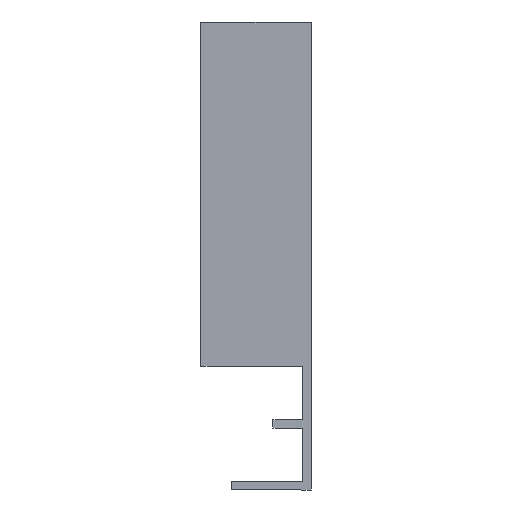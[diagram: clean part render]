
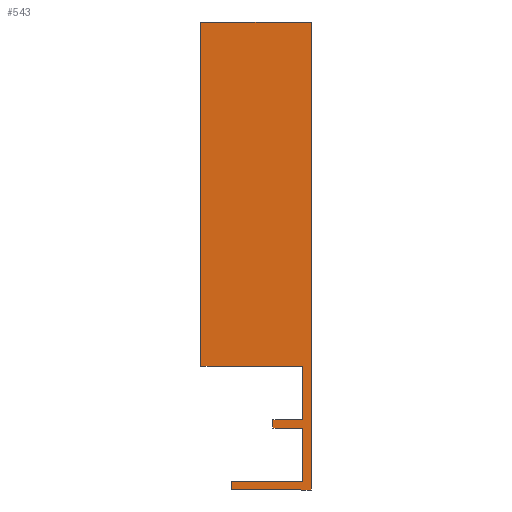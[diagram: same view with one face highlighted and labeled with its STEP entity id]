
A CAD part, left-side view. The second image highlights one B-rep face of the part: STEP entity #543.
In plain terms, the highlighted planar face has unit normal (-1, 0, 0).
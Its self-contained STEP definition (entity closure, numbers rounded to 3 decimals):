
#2 = VERTEX_POINT ( 'NONE', #12 ) ;
#4 = VERTEX_POINT ( 'NONE', #329 ) ;
#5 = VERTEX_POINT ( 'NONE', #10 ) ;
#6 = VERTEX_POINT ( 'NONE', #328 ) ;
#7 = VERTEX_POINT ( 'NONE', #16 ) ;
#8 = VERTEX_POINT ( 'NONE', #327 ) ;
#10 = CARTESIAN_POINT ( 'NONE',  ( -486.5, -4.3, -7.75 ) ) ;
#11 = VERTEX_POINT ( 'NONE', #331 ) ;
#12 = CARTESIAN_POINT ( 'NONE',  ( -486.5, -5.5, -17.9 ) ) ;
#14 = VERTEX_POINT ( 'NONE', #333 ) ;
#16 = CARTESIAN_POINT ( 'NONE',  ( -486.5, 6., -16.7 ) ) ;
#18 = VERTEX_POINT ( 'NONE', #336 ) ;
#43 = EDGE_CURVE ( 'NONE', #18, #5, #185, .T. ) ;
#46 = EDGE_CURVE ( 'NONE', #11, #2, #196, .T. ) ;
#48 = EDGE_CURVE ( 'NONE', #5, #321, #198, .T. ) ;
#55 = EDGE_CURVE ( 'NONE', #2, #8, #186, .T. ) ;
#58 = EDGE_CURVE ( 'NONE', #323, #322, #159, .T. ) ;
#61 = AXIS2_PLACEMENT_3D ( 'NONE', #496, #502, #503 ) ;
#62 = EDGE_CURVE ( 'NONE', #321, #323, #189, .T. ) ;
#63 = EDGE_CURVE ( 'NONE', #322, #6, #183, .T. ) ;
#68 = EDGE_CURVE ( 'NONE', #6, #7, #166, .T. ) ;
#82 = EDGE_CURVE ( 'NONE', #14, #18, #162, .T. ) ;
#87 = EDGE_CURVE ( 'NONE', #7, #11, #141, .T. ) ;
#97 = EDGE_CURVE ( 'NONE', #8, #4, #129, .T. ) ;
#100 = EDGE_CURVE ( 'NONE', #4, #14, #127, .T. ) ;
#126 = VECTOR ( 'NONE', #434, 1000. ) ;
#127 = LINE ( 'NONE', #433, #126 ) ;
#128 = VECTOR ( 'NONE', #431, 1000. ) ;
#129 = LINE ( 'NONE', #430, #128 ) ;
#140 = VECTOR ( 'NONE', #418, 1000. ) ;
#141 = LINE ( 'NONE', #417, #140 ) ;
#145 = VECTOR ( 'NONE', #414, 1000. ) ;
#159 = LINE ( 'NONE', #369, #209 ) ;
#162 = LINE ( 'NONE', #403, #145 ) ;
#165 = VECTOR ( 'NONE', #396, 1000. ) ;
#166 = LINE ( 'NONE', #390, #165 ) ;
#176 = ORIENTED_EDGE ( 'NONE', *, *, #63, .T. ) ;
#181 = VECTOR ( 'NONE', #387, 1000. ) ;
#183 = LINE ( 'NONE', #386, #181 ) ;
#184 = VECTOR ( 'NONE', #385, 1000. ) ;
#185 = LINE ( 'NONE', #355, #202 ) ;
#186 = LINE ( 'NONE', #376, #194 ) ;
#189 = LINE ( 'NONE', #384, #184 ) ;
#194 = VECTOR ( 'NONE', #377, 1000. ) ;
#196 = LINE ( 'NONE', #360, #204 ) ;
#198 = LINE ( 'NONE', #367, #207 ) ;
#202 = VECTOR ( 'NONE', #361, 1000. ) ;
#204 = VECTOR ( 'NONE', #366, 1000. ) ;
#207 = VECTOR ( 'NONE', #368, 1000. ) ;
#209 = VECTOR ( 'NONE', #381, 1000. ) ;
#225 = ORIENTED_EDGE ( 'NONE', *, *, #58, .T. ) ;
#233 = FACE_OUTER_BOUND ( 'NONE', #292, .T. ) ;
#236 = ORIENTED_EDGE ( 'NONE', *, *, #62, .T. ) ;
#237 = ORIENTED_EDGE ( 'NONE', *, *, #48, .T. ) ;
#238 = ORIENTED_EDGE ( 'NONE', *, *, #43, .T. ) ;
#239 = ORIENTED_EDGE ( 'NONE', *, *, #82, .T. ) ;
#240 = ORIENTED_EDGE ( 'NONE', *, *, #100, .T. ) ;
#241 = ORIENTED_EDGE ( 'NONE', *, *, #97, .T. ) ;
#242 = ORIENTED_EDGE ( 'NONE', *, *, #55, .T. ) ;
#243 = ORIENTED_EDGE ( 'NONE', *, *, #46, .T. ) ;
#244 = ORIENTED_EDGE ( 'NONE', *, *, #87, .T. ) ;
#245 = ORIENTED_EDGE ( 'NONE', *, *, #68, .T. ) ;
#292 = EDGE_LOOP ( 'NONE', ( #245, #244, #243, #242, #241, #240, #239, #238, #237, #236, #225, #176 ) ) ;
#321 = VERTEX_POINT ( 'NONE', #441 ) ;
#322 = VERTEX_POINT ( 'NONE', #444 ) ;
#323 = VERTEX_POINT ( 'NONE', #432 ) ;
#327 = CARTESIAN_POINT ( 'NONE',  ( -486.5, -5.5, 49.7 ) ) ;
#328 = CARTESIAN_POINT ( 'NONE',  ( -486.5, -4.3, -16.7 ) ) ;
#329 = CARTESIAN_POINT ( 'NONE',  ( -486.5, 10.4, 49.7 ) ) ;
#331 = CARTESIAN_POINT ( 'NONE',  ( -486.5, 6., -17.9 ) ) ;
#333 = CARTESIAN_POINT ( 'NONE',  ( -486.5, 10.4, 0. ) ) ;
#336 = CARTESIAN_POINT ( 'NONE',  ( -486.5, -4.3, 0. ) ) ;
#355 = CARTESIAN_POINT ( 'NONE',  ( -486.5, -4.3, 0. ) ) ;
#360 = CARTESIAN_POINT ( 'NONE',  ( -486.5, 6., -17.9 ) ) ;
#361 = DIRECTION ( 'NONE',  ( 0., 0., -1. ) ) ;
#366 = DIRECTION ( 'NONE',  ( 0., -1., 0. ) ) ;
#367 = CARTESIAN_POINT ( 'NONE',  ( -486.5, -4.3, -7.75 ) ) ;
#368 = DIRECTION ( 'NONE',  ( 0., 1., 0. ) ) ;
#369 = CARTESIAN_POINT ( 'NONE',  ( -486.5, 0., -8.95 ) ) ;
#376 = CARTESIAN_POINT ( 'NONE',  ( -486.5, -5.5, -17.9 ) ) ;
#377 = DIRECTION ( 'NONE',  ( 0., 0., 1. ) ) ;
#381 = DIRECTION ( 'NONE',  ( 0., -1., 0. ) ) ;
#384 = CARTESIAN_POINT ( 'NONE',  ( -486.5, 0., -7.75 ) ) ;
#385 = DIRECTION ( 'NONE',  ( 0., 0., -1. ) ) ;
#386 = CARTESIAN_POINT ( 'NONE',  ( -486.5, -4.3, -8.95 ) ) ;
#387 = DIRECTION ( 'NONE',  ( 0., 0., -1. ) ) ;
#390 = CARTESIAN_POINT ( 'NONE',  ( -486.5, -4.3, -16.7 ) ) ;
#396 = DIRECTION ( 'NONE',  ( 0., 1., 0. ) ) ;
#403 = CARTESIAN_POINT ( 'NONE',  ( -486.5, 10.4, 0. ) ) ;
#414 = DIRECTION ( 'NONE',  ( 0., -1., 0. ) ) ;
#417 = CARTESIAN_POINT ( 'NONE',  ( -486.5, 6., -16.7 ) ) ;
#418 = DIRECTION ( 'NONE',  ( 0., 0., -1. ) ) ;
#430 = CARTESIAN_POINT ( 'NONE',  ( -486.5, -5.5, 49.7 ) ) ;
#431 = DIRECTION ( 'NONE',  ( 0., 1., 0. ) ) ;
#432 = CARTESIAN_POINT ( 'NONE',  ( -486.5, 0., -8.95 ) ) ;
#433 = CARTESIAN_POINT ( 'NONE',  ( -486.5, 10.4, 49.7 ) ) ;
#434 = DIRECTION ( 'NONE',  ( 0., 0., -1. ) ) ;
#441 = CARTESIAN_POINT ( 'NONE',  ( -486.5, 0., -7.75 ) ) ;
#444 = CARTESIAN_POINT ( 'NONE',  ( -486.5, -4.3, -8.95 ) ) ;
#493 = PLANE ( 'NONE',  #61 ) ;
#496 = CARTESIAN_POINT ( 'NONE',  ( -486.5, 6., -16.7 ) ) ;
#502 = DIRECTION ( 'NONE',  ( -1., 0., 0. ) ) ;
#503 = DIRECTION ( 'NONE',  ( 0., -1., 0. ) ) ;
#543 = ADVANCED_FACE ( 'NONE', ( #233 ), #493, .T. ) ;
